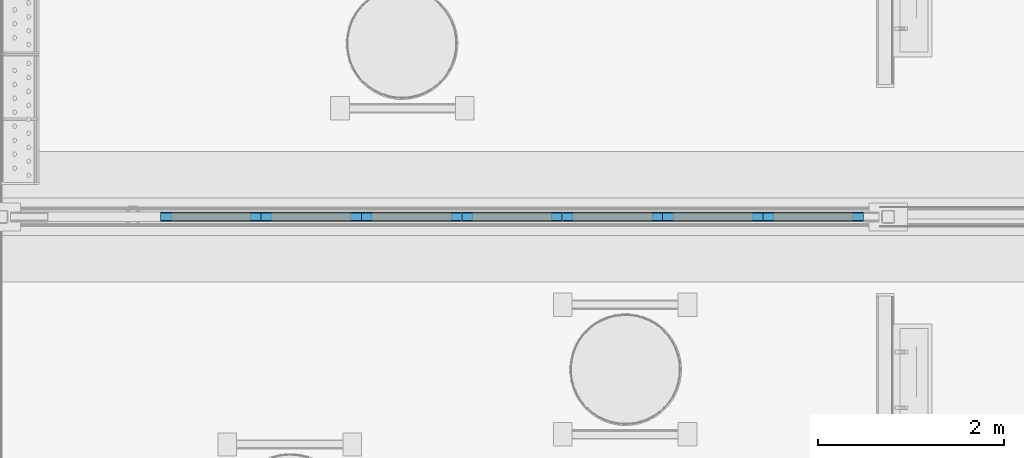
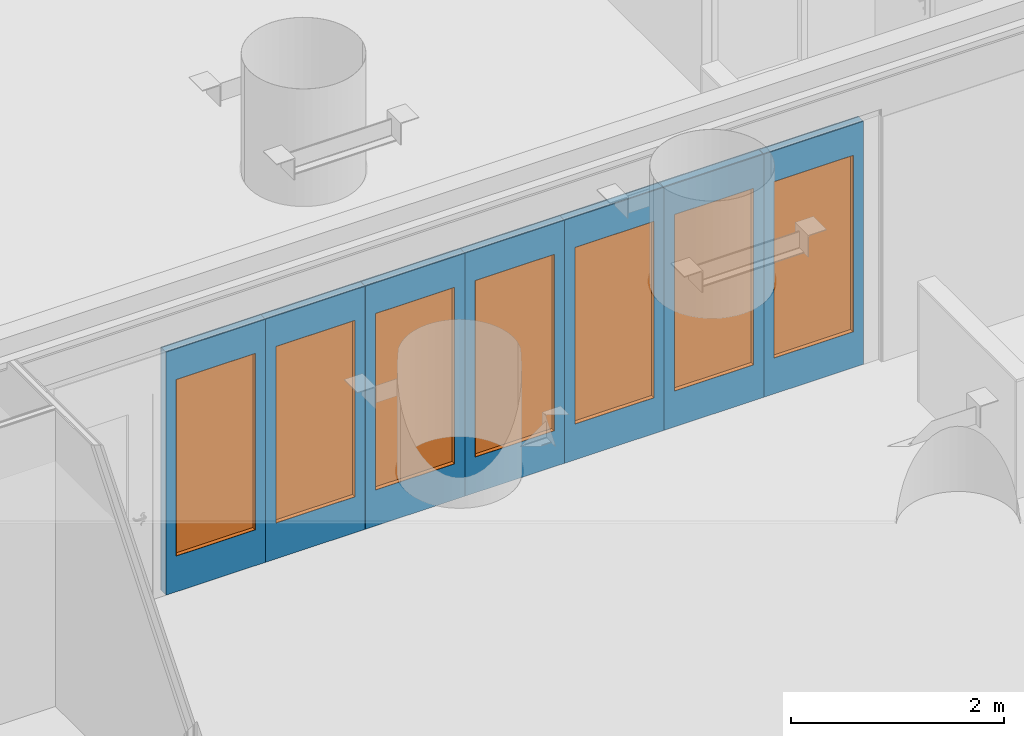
# One storey, part 14 of 788: 21 building element parts, 7 proxies, 7 openings, 7 elements without a shape of their own.
"""IFC2X3 building model written with IfcOpenShell, lengths in millimetres."""

from ifc_helpers import new_model, entity, si_unit, converted_unit, derived_unit, money_unit, direction, frame, origin_with_axes, place, context, subcontext, project, spatial, open_shell, faceted_brep, surface_model, source, transform, mapped, material, type_object, type_shapes, element, fill, aggregate, save


model = new_model("IFC2X3")

# Units and contexts
model_context = context("Model", 3, precision=0.01, world=origin_with_axes(), true_north=direction((0.0, 1.0)))
plan_context = context("Plan", 3, precision=0.01, world=origin_with_axes(), true_north=direction((0.0, 1.0)))
body_context = subcontext(model_context, "Body", "Model", "MODEL_VIEW")
ifc_project = project(units=[si_unit("LENGTHUNIT", "METRE", prefix="MILLI"), si_unit("AREAUNIT", "SQUARE_METRE"), si_unit("VOLUMEUNIT", "CUBIC_METRE"), converted_unit("PLANEANGLEUNIT", "DEGREE", entity("IfcPlaneAngleMeasure", 0.0174532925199), si_unit("PLANEANGLEUNIT", "RADIAN"), dimensions=[0, 0, 0, 0, 0, 0, 0]), money_unit("EUR"), converted_unit("TIMEUNIT", "Year", entity("IfcTimeMeasure", 31556926.0), si_unit("TIMEUNIT", "SECOND"), dimensions=[0, 0, 1, 0, 0, 0, 0]), si_unit("MASSUNIT", "GRAM", prefix="KILO"), si_unit("THERMODYNAMICTEMPERATUREUNIT", "DEGREE_CELSIUS"), si_unit("LUMINOUSINTENSITYUNIT", "LUMEN"), si_unit("ENERGYUNIT", "JOULE", prefix="MEGA"), derived_unit("THERMALCONDUCTANCEUNIT", [(si_unit("POWERUNIT", "WATT"), 1), (si_unit("LENGTHUNIT", "METRE"), -1), (si_unit("THERMODYNAMICTEMPERATUREUNIT", "KELVIN"), -1)]), derived_unit("SPECIFICHEATCAPACITYUNIT", [(si_unit("ENERGYUNIT", "JOULE"), 1), (si_unit("MASSUNIT", "GRAM", prefix="KILO"), -1), (si_unit("THERMODYNAMICTEMPERATUREUNIT", "KELVIN"), -1)]), derived_unit("MASSDENSITYUNIT", [(si_unit("MASSUNIT", "GRAM", prefix="KILO"), 1), (si_unit("VOLUMEUNIT", "CUBIC_METRE"), -1)])], contexts=[model_context, plan_context])

# Site, building, storey
site_placement = place(None, origin_with_axes())
site = spatial("IfcSite", under=ifc_project, at=site_placement, Name="Site", CompositionType="ELEMENT")
building_placement = place(site_placement, origin_with_axes())
building = spatial("IfcBuilding", under=site, at=building_placement, Name="Naam gebouw", CompositionType="ELEMENT")
storey_placement = place(building_placement, origin_with_axes())
storey = spatial("IfcBuildingStorey", under=building, at=storey_placement, Name="Begane grond", CompositionType="ELEMENT", Elevation=0.0)

# Proxy
building_element_proxy_type_1 = type_object("IfcBuildingElementProxyType", Name="R1 25", PredefinedType="NOTDEFINED")
shared_shape = source(origin_with_axes(), body_context, "Body", "SurfaceModel", [
    faceted_brep([(-426.5, -102.0, 2018.0), (-426.5, 0.0, 2018.0), (-428.5, 0.0, 2018.0), (-428.5, -102.0, 2018.0), (-426.5, -102.0, 2.0), (-426.5, 0.0, 2.0), (-428.5, 0.0, 2.0), (-428.5, -102.0, 2.0)], [[[0, 1, 2, 3]], [[4, 5, 1, 0]], [[1, 5, 6, 2]], [[3, 2, 6, 7]], [[0, 3, 7, 4]], [[7, 6, 5, 4]]]),
    faceted_brep([(426.5, -102.0, 2.0), (426.5, 0.0, 2.0), (428.5, 0.0, 2.0), (428.5, -102.0, 2.0), (426.5, -102.0, 2018.0), (426.5, 0.0, 2018.0), (428.5, 0.0, 2018.0), (428.5, -102.0, 2018.0)], [[[0, 1, 2, 3]], [[4, 5, 1, 0]], [[1, 5, 6, 2]], [[3, 2, 6, 7]], [[0, 3, 7, 4]], [[7, 6, 5, 4]]]),
    faceted_brep([(-426.5, -102.0, 2.0), (-426.5, 0.0, 2.0), (-428.5, 0.0, 2.0), (-428.5, -102.0, 2.0), (426.5, -102.0, 2.0), (426.5, 0.0, 2.0), (428.5, 0.0, 2.0), (428.5, 0.0, 0.0), (-428.5, 0.0, 0.0), (-428.5, -102.0, 0.0), (428.5, -102.0, 0.0), (428.5, -102.0, 2.0)], [[[0, 1, 2, 3]], [[4, 5, 1, 0]], [[1, 5, 6, 7, 8, 2]], [[3, 2, 8, 9]], [[0, 3, 9, 10, 11, 4]], [[11, 6, 5, 4]], [[10, 7, 6, 11]], [[9, 8, 7, 10]]]),
    faceted_brep([(426.5, -102.0, 2018.0), (426.5, 0.0, 2018.0), (428.5, 0.0, 2018.0), (428.5, -102.0, 2018.0), (-426.5, -102.0, 2018.0), (-426.5, 0.0, 2018.0), (-428.5, 0.0, 2018.0), (-428.5, 0.0, 2020.0), (428.5, 0.0, 2020.0), (428.5, -102.0, 2020.0), (-428.5, -102.0, 2020.0), (-428.5, -102.0, 2018.0)], [[[0, 1, 2, 3]], [[4, 5, 1, 0]], [[1, 5, 6, 7, 8, 2]], [[3, 2, 8, 9]], [[0, 3, 9, 10, 11, 4]], [[11, 6, 5, 4]], [[10, 7, 6, 11]], [[9, 8, 7, 10]]]),
    surface_model("IfcShellBasedSurfaceModel", [(-426.5, -64.0, 2.0), (426.5, -64.0, 2.0), (426.5, -64.0, 2018.0), (-426.5, -64.0, 2018.0)], [open_shell([[[0, 1, 2, 3]]])]),
    surface_model("IfcShellBasedSurfaceModel", [(-426.5, -44.0, 2.0), (-426.5, -44.0, 2018.0), (426.5, -44.0, 2018.0), (426.5, -44.0, 2.0)], [open_shell([[[0, 1, 2, 3]]])]),
])
type_shapes(building_element_proxy_type_1, [shared_shape])
proxy_8_placement = place(storey_placement, frame((12618.997734, 18619.9899917, 10.0), z_axis=(0.0, 0.0, 1.0), x_axis=(1.0, 0.0, 0.0)))
opening_1_placement = place(proxy_8_placement, frame((538.5, 0.0, 410.0), z_axis=(0.0, 0.0, 1.0), x_axis=(1.0, 0.0, 0.0)))
proxy_1_placement = place(opening_1_placement, frame((428.5, 0.0, 0.0), z_axis=(0.0, 0.0, 1.0), x_axis=(-1.0, 0.0, 0.0)))
proxy_1 = element("IfcBuildingElementProxy", 1, at=proxy_1_placement, inside=storey, type_object=building_element_proxy_type_1, Name="raam panelenwand", context=body_context, shape_type="MappedRepresentation", body=[
    mapped(shared_shape, transform((428.5, 51.0, 0.0))),
])

proxy_9_placement = place(storey_placement, frame((13696.997734, 18619.9899917, 10.0), z_axis=(0.0, 0.0, 1.0), x_axis=(1.0, 0.0, 0.0)))
opening_2_placement = place(proxy_9_placement, frame((538.5, 0.0, 410.0), z_axis=(0.0, 0.0, 1.0), x_axis=(1.0, 0.0, 0.0)))
proxy_2_placement = place(opening_2_placement, frame((428.5, 0.0, 0.0), z_axis=(0.0, 0.0, 1.0), x_axis=(-1.0, 0.0, 0.0)))
proxy_2 = element("IfcBuildingElementProxy", 2, at=proxy_2_placement, inside=storey, type_object=building_element_proxy_type_1, Name="raam panelenwand", context=body_context, shape_type="MappedRepresentation", body=[
    mapped(shared_shape, transform((428.5, 51.0, 0.0))),
])

proxy_10_placement = place(storey_placement, frame((14774.997734, 18619.9899917, 10.0), z_axis=(0.0, 0.0, 1.0), x_axis=(1.0, 0.0, 0.0)))
opening_3_placement = place(proxy_10_placement, frame((538.5, 0.0, 410.0), z_axis=(0.0, 0.0, 1.0), x_axis=(1.0, 0.0, 0.0)))
proxy_3_placement = place(opening_3_placement, frame((428.5, 0.0, 0.0), z_axis=(0.0, 0.0, 1.0), x_axis=(-1.0, 0.0, 0.0)))
proxy_3 = element("IfcBuildingElementProxy", 3, at=proxy_3_placement, inside=storey, type_object=building_element_proxy_type_1, Name="raam panelenwand", context=body_context, shape_type="MappedRepresentation", body=[
    mapped(shared_shape, transform((428.5, 51.0, 0.0))),
])

proxy_11_placement = place(storey_placement, frame((15852.997734, 18619.9899917, 10.0), z_axis=(0.0, 0.0, 1.0), x_axis=(1.0, 0.0, 0.0)))
opening_4_placement = place(proxy_11_placement, frame((538.5, 0.0, 410.0), z_axis=(0.0, 0.0, 1.0), x_axis=(1.0, 0.0, 0.0)))
proxy_4_placement = place(opening_4_placement, frame((428.5, 0.0, 0.0), z_axis=(0.0, 0.0, 1.0), x_axis=(-1.0, 0.0, 0.0)))
proxy_4 = element("IfcBuildingElementProxy", 4, at=proxy_4_placement, inside=storey, type_object=building_element_proxy_type_1, Name="raam panelenwand", context=body_context, shape_type="MappedRepresentation", body=[
    mapped(shared_shape, transform((428.5, 51.0, 0.0))),
])

proxy_12_placement = place(storey_placement, frame((16930.997734, 18619.9899917, 10.0), z_axis=(0.0, 0.0, 1.0), x_axis=(1.0, 0.0, 0.0)))
opening_5_placement = place(proxy_12_placement, frame((538.5, 0.0, 410.0), z_axis=(0.0, 0.0, 1.0), x_axis=(1.0, 0.0, 0.0)))
proxy_5_placement = place(opening_5_placement, frame((428.5, 0.0, 0.0), z_axis=(0.0, 0.0, 1.0), x_axis=(-1.0, 0.0, 0.0)))
proxy_5 = element("IfcBuildingElementProxy", 5, at=proxy_5_placement, inside=storey, type_object=building_element_proxy_type_1, Name="raam panelenwand", context=body_context, shape_type="MappedRepresentation", body=[
    mapped(shared_shape, transform((428.5, 51.0, 0.0))),
])

proxy_13_placement = place(storey_placement, frame((18008.997734, 18619.9899917, 10.0), z_axis=(0.0, 0.0, 1.0), x_axis=(1.0, 0.0, 0.0)))
opening_6_placement = place(proxy_13_placement, frame((538.5, 0.0, 410.0), z_axis=(0.0, 0.0, 1.0), x_axis=(1.0, 0.0, 0.0)))
proxy_6_placement = place(opening_6_placement, frame((428.5, 0.0, 0.0), z_axis=(0.0, 0.0, 1.0), x_axis=(-1.0, 0.0, 0.0)))
proxy_6 = element("IfcBuildingElementProxy", 6, at=proxy_6_placement, inside=storey, type_object=building_element_proxy_type_1, Name="raam panelenwand", context=body_context, shape_type="MappedRepresentation", body=[
    mapped(shared_shape, transform((428.5, 51.0, 0.0))),
])

proxy_14_placement = place(storey_placement, frame((19086.997734, 18619.9899917, 10.0), z_axis=(0.0, 0.0, 1.0), x_axis=(1.0, 0.0, 0.0)))
opening_7_placement = place(proxy_14_placement, frame((538.5, 0.0, 410.0), z_axis=(0.0, 0.0, 1.0), x_axis=(1.0, 0.0, 0.0)))
proxy_7_placement = place(opening_7_placement, frame((428.5, 0.0, 0.0), z_axis=(0.0, 0.0, 1.0), x_axis=(-1.0, 0.0, 0.0)))
proxy_7 = element("IfcBuildingElementProxy", 7, at=proxy_7_placement, inside=storey, type_object=building_element_proxy_type_1, Name="raam panelenwand", context=body_context, shape_type="MappedRepresentation", body=[
    mapped(shared_shape, transform((428.5, 51.0, 0.0))),
])

# Proxy, opening
building_element_proxy_type_2 = type_object("IfcBuildingElementProxyType", Name="30 Panelenwand 102 102", PredefinedType="NOTDEFINED")
proxy_8 = element("IfcBuildingElementProxy", 8, at=proxy_8_placement, inside=storey, type_object=building_element_proxy_type_2, Name="panelenwand")
opening_1 = element("IfcOpeningElement", 9, at=opening_1_placement, cuts=proxy_8, Name="raam panelenwand", context=body_context, shape_type="Brep", body=[
    faceted_brep([(-428.5, -102.0, 0.0), (-428.5, -102.0, 2020.0), (-428.5, 204.0, 2020.0), (-428.5, 204.0, 0.0), (428.5, -102.0, 0.0), (428.5, -102.0, 2020.0), (428.5, 204.0, 2020.0), (428.5, 204.0, 0.0)], [[[0, 1, 2, 3]], [[0, 4, 5, 1]], [[1, 5, 6, 2]], [[3, 2, 6, 7]], [[4, 0, 3, 7]], [[5, 4, 7, 6]]]),
])

fill(opening_1, proxy_1)

# Building element part
ifc_material_1 = material(Name="Gipsplaat")
building_element_part_1_placement = place(proxy_8_placement, origin_with_axes())
building_element_part_1 = element("IfcBuildingElementPart", 10, at=building_element_part_1_placement, material=ifc_material_1, Name="Gipsplaat", context=body_context, shape_type="Brep", body=[
    faceted_brep([(1077.0, 38.5, 2780.0), (0.0, 38.5, 2780.0), (0.0, 38.5, 0.0), (1077.0, 38.5, 0.0), (110.0, 38.5, 410.0), (110.0, 38.5, 2430.0), (967.0, 38.5, 2430.0), (967.0, 38.5, 410.0), (1077.0, 51.0, 2780.0), (0.0, 51.0, 2780.0), (0.0, 51.0, 0.0), (1077.0, 51.0, 0.0), (110.0, 51.0, 410.0), (110.0, 51.0, 2430.0), (967.0, 51.0, 2430.0), (967.0, 51.0, 410.0)], [[[0, 1, 2, 3], [4, 5, 6, 7]], [[8, 9, 1, 0]], [[9, 10, 2, 1]], [[3, 2, 10, 11]], [[3, 11, 8, 0]], [[12, 13, 5, 4]], [[13, 14, 6, 5]], [[14, 15, 7, 6]], [[15, 12, 4, 7]], [[11, 10, 9, 8], [12, 15, 14, 13]]]),
])

ifc_material_2 = material(Name="Lucht frame_wit")
building_element_part_2_placement = place(proxy_8_placement, origin_with_axes())
building_element_part_2 = element("IfcBuildingElementPart", 11, at=building_element_part_2_placement, material=ifc_material_2, Name="Lucht frame_wit", context=body_context, shape_type="Brep", body=[
    faceted_brep([(1077.0, -38.5, 2780.0), (0.0, -38.5, 2780.0), (0.0, -38.5, 0.0), (1077.0, -38.5, 0.0), (110.0, -38.5, 410.0), (110.0, -38.5, 2430.0), (967.0, -38.5, 2430.0), (967.0, -38.5, 410.0), (1077.0, 38.5, 2780.0), (0.0, 38.5, 2780.0), (0.0, 38.5, 0.0), (1077.0, 38.5, 0.0), (110.0, 38.5, 410.0), (110.0, 38.5, 2430.0), (967.0, 38.5, 2430.0), (967.0, 38.5, 410.0)], [[[0, 1, 2, 3], [4, 5, 6, 7]], [[8, 9, 1, 0]], [[9, 10, 2, 1]], [[3, 2, 10, 11]], [[3, 11, 8, 0]], [[12, 13, 5, 4]], [[13, 14, 6, 5]], [[14, 15, 7, 6]], [[15, 12, 4, 7]], [[11, 10, 9, 8], [12, 15, 14, 13]]]),
])

building_element_part_3_placement = place(proxy_8_placement, origin_with_axes())
building_element_part_3 = element("IfcBuildingElementPart", 12, at=building_element_part_3_placement, material=ifc_material_1, Name="Gipsplaat", context=body_context, shape_type="Brep", body=[
    faceted_brep([(1077.0, -51.0, 2780.0), (0.0, -51.0, 2780.0), (0.0, -51.0, 0.0), (1077.0, -51.0, 0.0), (110.0, -51.0, 410.0), (110.0, -51.0, 2430.0), (967.0, -51.0, 2430.0), (967.0, -51.0, 410.0), (1077.0, -38.5, 2780.0), (0.0, -38.5, 2780.0), (0.0, -38.5, 0.0), (1077.0, -38.5, 0.0), (110.0, -38.5, 410.0), (110.0, -38.5, 2430.0), (967.0, -38.5, 2430.0), (967.0, -38.5, 410.0)], [[[0, 1, 2, 3], [4, 5, 6, 7]], [[8, 9, 1, 0]], [[9, 10, 2, 1]], [[3, 2, 10, 11]], [[3, 11, 8, 0]], [[12, 13, 5, 4]], [[13, 14, 6, 5]], [[14, 15, 7, 6]], [[15, 12, 4, 7]], [[11, 10, 9, 8], [12, 15, 14, 13]]]),
])

aggregate(proxy_8, [building_element_part_1, building_element_part_2, building_element_part_3])

# Proxy, opening
proxy_9 = element("IfcBuildingElementProxy", 13, at=proxy_9_placement, inside=storey, type_object=building_element_proxy_type_2, Name="panelenwand")
opening_2 = element("IfcOpeningElement", 14, at=opening_2_placement, cuts=proxy_9, Name="raam panelenwand", context=body_context, shape_type="Brep", body=[
    faceted_brep([(-428.5, -102.0, 0.0), (-428.5, -102.0, 2020.0), (-428.5, 204.0, 2020.0), (-428.5, 204.0, 0.0), (428.5, -102.0, 0.0), (428.5, -102.0, 2020.0), (428.5, 204.0, 2020.0), (428.5, 204.0, 0.0)], [[[0, 1, 2, 3]], [[0, 4, 5, 1]], [[1, 5, 6, 2]], [[3, 2, 6, 7]], [[4, 0, 3, 7]], [[5, 4, 7, 6]]]),
])

fill(opening_2, proxy_2)

# Building element part
building_element_part_4_placement = place(proxy_9_placement, origin_with_axes())
building_element_part_4 = element("IfcBuildingElementPart", 15, at=building_element_part_4_placement, material=ifc_material_1, Name="Gipsplaat", context=body_context, shape_type="Brep", body=[
    faceted_brep([(1077.0, 38.5, 2780.0), (0.0, 38.5, 2780.0), (0.0, 38.5, 0.0), (1077.0, 38.5, 0.0), (110.0, 38.5, 410.0), (110.0, 38.5, 2430.0), (967.0, 38.5, 2430.0), (967.0, 38.5, 410.0), (1077.0, 51.0, 2780.0), (0.0, 51.0, 2780.0), (0.0, 51.0, 0.0), (1077.0, 51.0, 0.0), (110.0, 51.0, 410.0), (110.0, 51.0, 2430.0), (967.0, 51.0, 2430.0), (967.0, 51.0, 410.0)], [[[0, 1, 2, 3], [4, 5, 6, 7]], [[8, 9, 1, 0]], [[9, 10, 2, 1]], [[3, 2, 10, 11]], [[3, 11, 8, 0]], [[12, 13, 5, 4]], [[13, 14, 6, 5]], [[14, 15, 7, 6]], [[15, 12, 4, 7]], [[11, 10, 9, 8], [12, 15, 14, 13]]]),
])

building_element_part_5_placement = place(proxy_9_placement, origin_with_axes())
building_element_part_5 = element("IfcBuildingElementPart", 16, at=building_element_part_5_placement, material=ifc_material_2, Name="Lucht frame_wit", context=body_context, shape_type="Brep", body=[
    faceted_brep([(1077.0, -38.5, 2780.0), (0.0, -38.5, 2780.0), (0.0, -38.5, 0.0), (1077.0, -38.5, 0.0), (110.0, -38.5, 410.0), (110.0, -38.5, 2430.0), (967.0, -38.5, 2430.0), (967.0, -38.5, 410.0), (1077.0, 38.5, 2780.0), (0.0, 38.5, 2780.0), (0.0, 38.5, 0.0), (1077.0, 38.5, 0.0), (110.0, 38.5, 410.0), (110.0, 38.5, 2430.0), (967.0, 38.5, 2430.0), (967.0, 38.5, 410.0)], [[[0, 1, 2, 3], [4, 5, 6, 7]], [[8, 9, 1, 0]], [[9, 10, 2, 1]], [[3, 2, 10, 11]], [[3, 11, 8, 0]], [[12, 13, 5, 4]], [[13, 14, 6, 5]], [[14, 15, 7, 6]], [[15, 12, 4, 7]], [[11, 10, 9, 8], [12, 15, 14, 13]]]),
])

building_element_part_6_placement = place(proxy_9_placement, origin_with_axes())
building_element_part_6 = element("IfcBuildingElementPart", 17, at=building_element_part_6_placement, material=ifc_material_1, Name="Gipsplaat", context=body_context, shape_type="Brep", body=[
    faceted_brep([(1077.0, -51.0, 2780.0), (0.0, -51.0, 2780.0), (0.0, -51.0, 0.0), (1077.0, -51.0, 0.0), (110.0, -51.0, 410.0), (110.0, -51.0, 2430.0), (967.0, -51.0, 2430.0), (967.0, -51.0, 410.0), (1077.0, -38.5, 2780.0), (0.0, -38.5, 2780.0), (0.0, -38.5, 0.0), (1077.0, -38.5, 0.0), (110.0, -38.5, 410.0), (110.0, -38.5, 2430.0), (967.0, -38.5, 2430.0), (967.0, -38.5, 410.0)], [[[0, 1, 2, 3], [4, 5, 6, 7]], [[8, 9, 1, 0]], [[9, 10, 2, 1]], [[3, 2, 10, 11]], [[3, 11, 8, 0]], [[12, 13, 5, 4]], [[13, 14, 6, 5]], [[14, 15, 7, 6]], [[15, 12, 4, 7]], [[11, 10, 9, 8], [12, 15, 14, 13]]]),
])

aggregate(proxy_9, [building_element_part_4, building_element_part_5, building_element_part_6])

# Proxy, opening
proxy_10 = element("IfcBuildingElementProxy", 18, at=proxy_10_placement, inside=storey, type_object=building_element_proxy_type_2, Name="panelenwand")
opening_3 = element("IfcOpeningElement", 19, at=opening_3_placement, cuts=proxy_10, Name="raam panelenwand", context=body_context, shape_type="Brep", body=[
    faceted_brep([(-428.5, -102.0, 0.0), (-428.5, -102.0, 2020.0), (-428.5, 204.0, 2020.0), (-428.5, 204.0, 0.0), (428.5, -102.0, 0.0), (428.5, -102.0, 2020.0), (428.5, 204.0, 2020.0), (428.5, 204.0, 0.0)], [[[0, 1, 2, 3]], [[0, 4, 5, 1]], [[1, 5, 6, 2]], [[3, 2, 6, 7]], [[4, 0, 3, 7]], [[5, 4, 7, 6]]]),
])

fill(opening_3, proxy_3)

# Building element part
building_element_part_7_placement = place(proxy_10_placement, origin_with_axes())
building_element_part_7 = element("IfcBuildingElementPart", 20, at=building_element_part_7_placement, material=ifc_material_1, Name="Gipsplaat", context=body_context, shape_type="Brep", body=[
    faceted_brep([(1077.0, 38.5, 2780.0), (0.0, 38.5, 2780.0), (0.0, 38.5, 0.0), (1077.0, 38.5, 0.0), (110.0, 38.5, 410.0), (110.0, 38.5, 2430.0), (967.0, 38.5, 2430.0), (967.0, 38.5, 410.0), (1077.0, 51.0, 2780.0), (0.0, 51.0, 2780.0), (0.0, 51.0, 0.0), (1077.0, 51.0, 0.0), (110.0, 51.0, 410.0), (110.0, 51.0, 2430.0), (967.0, 51.0, 2430.0), (967.0, 51.0, 410.0)], [[[0, 1, 2, 3], [4, 5, 6, 7]], [[8, 9, 1, 0]], [[9, 10, 2, 1]], [[3, 2, 10, 11]], [[3, 11, 8, 0]], [[12, 13, 5, 4]], [[13, 14, 6, 5]], [[14, 15, 7, 6]], [[15, 12, 4, 7]], [[11, 10, 9, 8], [12, 15, 14, 13]]]),
])

building_element_part_8_placement = place(proxy_10_placement, origin_with_axes())
building_element_part_8 = element("IfcBuildingElementPart", 21, at=building_element_part_8_placement, material=ifc_material_2, Name="Lucht frame_wit", context=body_context, shape_type="Brep", body=[
    faceted_brep([(1077.0, -38.5, 2780.0), (0.0, -38.5, 2780.0), (0.0, -38.5, 0.0), (1077.0, -38.5, 0.0), (110.0, -38.5, 410.0), (110.0, -38.5, 2430.0), (967.0, -38.5, 2430.0), (967.0, -38.5, 410.0), (1077.0, 38.5, 2780.0), (0.0, 38.5, 2780.0), (0.0, 38.5, 0.0), (1077.0, 38.5, 0.0), (110.0, 38.5, 410.0), (110.0, 38.5, 2430.0), (967.0, 38.5, 2430.0), (967.0, 38.5, 410.0)], [[[0, 1, 2, 3], [4, 5, 6, 7]], [[8, 9, 1, 0]], [[9, 10, 2, 1]], [[3, 2, 10, 11]], [[3, 11, 8, 0]], [[12, 13, 5, 4]], [[13, 14, 6, 5]], [[14, 15, 7, 6]], [[15, 12, 4, 7]], [[11, 10, 9, 8], [12, 15, 14, 13]]]),
])

building_element_part_9_placement = place(proxy_10_placement, origin_with_axes())
building_element_part_9 = element("IfcBuildingElementPart", 22, at=building_element_part_9_placement, material=ifc_material_1, Name="Gipsplaat", context=body_context, shape_type="Brep", body=[
    faceted_brep([(1077.0, -51.0, 2780.0), (0.0, -51.0, 2780.0), (0.0, -51.0, 0.0), (1077.0, -51.0, 0.0), (110.0, -51.0, 410.0), (110.0, -51.0, 2430.0), (967.0, -51.0, 2430.0), (967.0, -51.0, 410.0), (1077.0, -38.5, 2780.0), (0.0, -38.5, 2780.0), (0.0, -38.5, 0.0), (1077.0, -38.5, 0.0), (110.0, -38.5, 410.0), (110.0, -38.5, 2430.0), (967.0, -38.5, 2430.0), (967.0, -38.5, 410.0)], [[[0, 1, 2, 3], [4, 5, 6, 7]], [[8, 9, 1, 0]], [[9, 10, 2, 1]], [[3, 2, 10, 11]], [[3, 11, 8, 0]], [[12, 13, 5, 4]], [[13, 14, 6, 5]], [[14, 15, 7, 6]], [[15, 12, 4, 7]], [[11, 10, 9, 8], [12, 15, 14, 13]]]),
])

aggregate(proxy_10, [building_element_part_7, building_element_part_8, building_element_part_9])

# Proxy, opening
proxy_11 = element("IfcBuildingElementProxy", 23, at=proxy_11_placement, inside=storey, type_object=building_element_proxy_type_2, Name="panelenwand")
opening_4 = element("IfcOpeningElement", 24, at=opening_4_placement, cuts=proxy_11, Name="raam panelenwand", context=body_context, shape_type="Brep", body=[
    faceted_brep([(-428.5, -102.0, 0.0), (-428.5, -102.0, 2020.0), (-428.5, 204.0, 2020.0), (-428.5, 204.0, 0.0), (428.5, -102.0, 0.0), (428.5, -102.0, 2020.0), (428.5, 204.0, 2020.0), (428.5, 204.0, 0.0)], [[[0, 1, 2, 3]], [[0, 4, 5, 1]], [[1, 5, 6, 2]], [[3, 2, 6, 7]], [[4, 0, 3, 7]], [[5, 4, 7, 6]]]),
])

fill(opening_4, proxy_4)

# Building element part
building_element_part_10_placement = place(proxy_11_placement, origin_with_axes())
building_element_part_10 = element("IfcBuildingElementPart", 25, at=building_element_part_10_placement, material=ifc_material_1, Name="Gipsplaat", context=body_context, shape_type="Brep", body=[
    faceted_brep([(1077.0, 38.5, 2780.0), (0.0, 38.5, 2780.0), (0.0, 38.5, 0.0), (1077.0, 38.5, 0.0), (110.0, 38.5, 410.0), (110.0, 38.5, 2430.0), (967.0, 38.5, 2430.0), (967.0, 38.5, 410.0), (1077.0, 51.0, 2780.0), (0.0, 51.0, 2780.0), (0.0, 51.0, 0.0), (1077.0, 51.0, 0.0), (110.0, 51.0, 410.0), (110.0, 51.0, 2430.0), (967.0, 51.0, 2430.0), (967.0, 51.0, 410.0)], [[[0, 1, 2, 3], [4, 5, 6, 7]], [[8, 9, 1, 0]], [[9, 10, 2, 1]], [[3, 2, 10, 11]], [[3, 11, 8, 0]], [[12, 13, 5, 4]], [[13, 14, 6, 5]], [[14, 15, 7, 6]], [[15, 12, 4, 7]], [[11, 10, 9, 8], [12, 15, 14, 13]]]),
])

building_element_part_11_placement = place(proxy_11_placement, origin_with_axes())
building_element_part_11 = element("IfcBuildingElementPart", 26, at=building_element_part_11_placement, material=ifc_material_2, Name="Lucht frame_wit", context=body_context, shape_type="Brep", body=[
    faceted_brep([(1077.0, -38.5, 2780.0), (0.0, -38.5, 2780.0), (0.0, -38.5, 0.0), (1077.0, -38.5, 0.0), (110.0, -38.5, 410.0), (110.0, -38.5, 2430.0), (967.0, -38.5, 2430.0), (967.0, -38.5, 410.0), (1077.0, 38.5, 2780.0), (0.0, 38.5, 2780.0), (0.0, 38.5, 0.0), (1077.0, 38.5, 0.0), (110.0, 38.5, 410.0), (110.0, 38.5, 2430.0), (967.0, 38.5, 2430.0), (967.0, 38.5, 410.0)], [[[0, 1, 2, 3], [4, 5, 6, 7]], [[8, 9, 1, 0]], [[9, 10, 2, 1]], [[3, 2, 10, 11]], [[3, 11, 8, 0]], [[12, 13, 5, 4]], [[13, 14, 6, 5]], [[14, 15, 7, 6]], [[15, 12, 4, 7]], [[11, 10, 9, 8], [12, 15, 14, 13]]]),
])

building_element_part_12_placement = place(proxy_11_placement, origin_with_axes())
building_element_part_12 = element("IfcBuildingElementPart", 27, at=building_element_part_12_placement, material=ifc_material_1, Name="Gipsplaat", context=body_context, shape_type="Brep", body=[
    faceted_brep([(1077.0, -51.0, 2780.0), (0.0, -51.0, 2780.0), (0.0, -51.0, 0.0), (1077.0, -51.0, 0.0), (110.0, -51.0, 410.0), (110.0, -51.0, 2430.0), (967.0, -51.0, 2430.0), (967.0, -51.0, 410.0), (1077.0, -38.5, 2780.0), (0.0, -38.5, 2780.0), (0.0, -38.5, 0.0), (1077.0, -38.5, 0.0), (110.0, -38.5, 410.0), (110.0, -38.5, 2430.0), (967.0, -38.5, 2430.0), (967.0, -38.5, 410.0)], [[[0, 1, 2, 3], [4, 5, 6, 7]], [[8, 9, 1, 0]], [[9, 10, 2, 1]], [[3, 2, 10, 11]], [[3, 11, 8, 0]], [[12, 13, 5, 4]], [[13, 14, 6, 5]], [[14, 15, 7, 6]], [[15, 12, 4, 7]], [[11, 10, 9, 8], [12, 15, 14, 13]]]),
])

aggregate(proxy_11, [building_element_part_10, building_element_part_11, building_element_part_12])

# Proxy, opening
proxy_12 = element("IfcBuildingElementProxy", 28, at=proxy_12_placement, inside=storey, type_object=building_element_proxy_type_2, Name="panelenwand")
opening_5 = element("IfcOpeningElement", 29, at=opening_5_placement, cuts=proxy_12, Name="raam panelenwand", context=body_context, shape_type="Brep", body=[
    faceted_brep([(-428.5, -102.0, 0.0), (-428.5, -102.0, 2020.0), (-428.5, 204.0, 2020.0), (-428.5, 204.0, 0.0), (428.5, -102.0, 0.0), (428.5, -102.0, 2020.0), (428.5, 204.0, 2020.0), (428.5, 204.0, 0.0)], [[[0, 1, 2, 3]], [[0, 4, 5, 1]], [[1, 5, 6, 2]], [[3, 2, 6, 7]], [[4, 0, 3, 7]], [[5, 4, 7, 6]]]),
])

fill(opening_5, proxy_5)

# Building element part
building_element_part_13_placement = place(proxy_12_placement, origin_with_axes())
building_element_part_13 = element("IfcBuildingElementPart", 30, at=building_element_part_13_placement, material=ifc_material_1, Name="Gipsplaat", context=body_context, shape_type="Brep", body=[
    faceted_brep([(1077.0, 38.5, 2780.0), (0.0, 38.5, 2780.0), (0.0, 38.5, 0.0), (1077.0, 38.5, 0.0), (110.0, 38.5, 410.0), (110.0, 38.5, 2430.0), (967.0, 38.5, 2430.0), (967.0, 38.5, 410.0), (1077.0, 51.0, 2780.0), (0.0, 51.0, 2780.0), (0.0, 51.0, 0.0), (1077.0, 51.0, 0.0), (110.0, 51.0, 410.0), (110.0, 51.0, 2430.0), (967.0, 51.0, 2430.0), (967.0, 51.0, 410.0)], [[[0, 1, 2, 3], [4, 5, 6, 7]], [[8, 9, 1, 0]], [[9, 10, 2, 1]], [[3, 2, 10, 11]], [[3, 11, 8, 0]], [[12, 13, 5, 4]], [[13, 14, 6, 5]], [[14, 15, 7, 6]], [[15, 12, 4, 7]], [[11, 10, 9, 8], [12, 15, 14, 13]]]),
])

building_element_part_14_placement = place(proxy_12_placement, origin_with_axes())
building_element_part_14 = element("IfcBuildingElementPart", 31, at=building_element_part_14_placement, material=ifc_material_2, Name="Lucht frame_wit", context=body_context, shape_type="Brep", body=[
    faceted_brep([(1077.0, -38.5, 2780.0), (0.0, -38.5, 2780.0), (0.0, -38.5, 0.0), (1077.0, -38.5, 0.0), (110.0, -38.5, 410.0), (110.0, -38.5, 2430.0), (967.0, -38.5, 2430.0), (967.0, -38.5, 410.0), (1077.0, 38.5, 2780.0), (0.0, 38.5, 2780.0), (0.0, 38.5, 0.0), (1077.0, 38.5, 0.0), (110.0, 38.5, 410.0), (110.0, 38.5, 2430.0), (967.0, 38.5, 2430.0), (967.0, 38.5, 410.0)], [[[0, 1, 2, 3], [4, 5, 6, 7]], [[8, 9, 1, 0]], [[9, 10, 2, 1]], [[3, 2, 10, 11]], [[3, 11, 8, 0]], [[12, 13, 5, 4]], [[13, 14, 6, 5]], [[14, 15, 7, 6]], [[15, 12, 4, 7]], [[11, 10, 9, 8], [12, 15, 14, 13]]]),
])

building_element_part_15_placement = place(proxy_12_placement, origin_with_axes())
building_element_part_15 = element("IfcBuildingElementPart", 32, at=building_element_part_15_placement, material=ifc_material_1, Name="Gipsplaat", context=body_context, shape_type="Brep", body=[
    faceted_brep([(1077.0, -51.0, 2780.0), (0.0, -51.0, 2780.0), (0.0, -51.0, 0.0), (1077.0, -51.0, 0.0), (110.0, -51.0, 410.0), (110.0, -51.0, 2430.0), (967.0, -51.0, 2430.0), (967.0, -51.0, 410.0), (1077.0, -38.5, 2780.0), (0.0, -38.5, 2780.0), (0.0, -38.5, 0.0), (1077.0, -38.5, 0.0), (110.0, -38.5, 410.0), (110.0, -38.5, 2430.0), (967.0, -38.5, 2430.0), (967.0, -38.5, 410.0)], [[[0, 1, 2, 3], [4, 5, 6, 7]], [[8, 9, 1, 0]], [[9, 10, 2, 1]], [[3, 2, 10, 11]], [[3, 11, 8, 0]], [[12, 13, 5, 4]], [[13, 14, 6, 5]], [[14, 15, 7, 6]], [[15, 12, 4, 7]], [[11, 10, 9, 8], [12, 15, 14, 13]]]),
])

aggregate(proxy_12, [building_element_part_13, building_element_part_14, building_element_part_15])

# Proxy, opening
proxy_13 = element("IfcBuildingElementProxy", 33, at=proxy_13_placement, inside=storey, type_object=building_element_proxy_type_2, Name="panelenwand")
opening_6 = element("IfcOpeningElement", 34, at=opening_6_placement, cuts=proxy_13, Name="raam panelenwand", context=body_context, shape_type="Brep", body=[
    faceted_brep([(-428.5, -102.0, 0.0), (-428.5, -102.0, 2020.0), (-428.5, 204.0, 2020.0), (-428.5, 204.0, 0.0), (428.5, -102.0, 0.0), (428.5, -102.0, 2020.0), (428.5, 204.0, 2020.0), (428.5, 204.0, 0.0)], [[[0, 1, 2, 3]], [[0, 4, 5, 1]], [[1, 5, 6, 2]], [[3, 2, 6, 7]], [[4, 0, 3, 7]], [[5, 4, 7, 6]]]),
])

fill(opening_6, proxy_6)

# Building element part
building_element_part_16_placement = place(proxy_13_placement, origin_with_axes())
building_element_part_16 = element("IfcBuildingElementPart", 35, at=building_element_part_16_placement, material=ifc_material_1, Name="Gipsplaat", context=body_context, shape_type="Brep", body=[
    faceted_brep([(1077.0, 38.5, 2780.0), (0.0, 38.5, 2780.0), (0.0, 38.5, 0.0), (1077.0, 38.5, 0.0), (110.0, 38.5, 410.0), (110.0, 38.5, 2430.0), (967.0, 38.5, 2430.0), (967.0, 38.5, 410.0), (1077.0, 51.0, 2780.0), (0.0, 51.0, 2780.0), (0.0, 51.0, 0.0), (1077.0, 51.0, 0.0), (110.0, 51.0, 410.0), (110.0, 51.0, 2430.0), (967.0, 51.0, 2430.0), (967.0, 51.0, 410.0)], [[[0, 1, 2, 3], [4, 5, 6, 7]], [[8, 9, 1, 0]], [[9, 10, 2, 1]], [[3, 2, 10, 11]], [[3, 11, 8, 0]], [[12, 13, 5, 4]], [[13, 14, 6, 5]], [[14, 15, 7, 6]], [[15, 12, 4, 7]], [[11, 10, 9, 8], [12, 15, 14, 13]]]),
])

building_element_part_17_placement = place(proxy_13_placement, origin_with_axes())
building_element_part_17 = element("IfcBuildingElementPart", 36, at=building_element_part_17_placement, material=ifc_material_2, Name="Lucht frame_wit", context=body_context, shape_type="Brep", body=[
    faceted_brep([(1077.0, -38.5, 2780.0), (0.0, -38.5, 2780.0), (0.0, -38.5, 0.0), (1077.0, -38.5, 0.0), (110.0, -38.5, 410.0), (110.0, -38.5, 2430.0), (967.0, -38.5, 2430.0), (967.0, -38.5, 410.0), (1077.0, 38.5, 2780.0), (0.0, 38.5, 2780.0), (0.0, 38.5, 0.0), (1077.0, 38.5, 0.0), (110.0, 38.5, 410.0), (110.0, 38.5, 2430.0), (967.0, 38.5, 2430.0), (967.0, 38.5, 410.0)], [[[0, 1, 2, 3], [4, 5, 6, 7]], [[8, 9, 1, 0]], [[9, 10, 2, 1]], [[3, 2, 10, 11]], [[3, 11, 8, 0]], [[12, 13, 5, 4]], [[13, 14, 6, 5]], [[14, 15, 7, 6]], [[15, 12, 4, 7]], [[11, 10, 9, 8], [12, 15, 14, 13]]]),
])

building_element_part_18_placement = place(proxy_13_placement, origin_with_axes())
building_element_part_18 = element("IfcBuildingElementPart", 37, at=building_element_part_18_placement, material=ifc_material_1, Name="Gipsplaat", context=body_context, shape_type="Brep", body=[
    faceted_brep([(1077.0, -51.0, 2780.0), (0.0, -51.0, 2780.0), (0.0, -51.0, 0.0), (1077.0, -51.0, 0.0), (110.0, -51.0, 410.0), (110.0, -51.0, 2430.0), (967.0, -51.0, 2430.0), (967.0, -51.0, 410.0), (1077.0, -38.5, 2780.0), (0.0, -38.5, 2780.0), (0.0, -38.5, 0.0), (1077.0, -38.5, 0.0), (110.0, -38.5, 410.0), (110.0, -38.5, 2430.0), (967.0, -38.5, 2430.0), (967.0, -38.5, 410.0)], [[[0, 1, 2, 3], [4, 5, 6, 7]], [[8, 9, 1, 0]], [[9, 10, 2, 1]], [[3, 2, 10, 11]], [[3, 11, 8, 0]], [[12, 13, 5, 4]], [[13, 14, 6, 5]], [[14, 15, 7, 6]], [[15, 12, 4, 7]], [[11, 10, 9, 8], [12, 15, 14, 13]]]),
])

aggregate(proxy_13, [building_element_part_16, building_element_part_17, building_element_part_18])

# Proxy, opening
proxy_14 = element("IfcBuildingElementProxy", 38, at=proxy_14_placement, inside=storey, type_object=building_element_proxy_type_2, Name="panelenwand")
opening_7 = element("IfcOpeningElement", 39, at=opening_7_placement, cuts=proxy_14, Name="raam panelenwand", context=body_context, shape_type="Brep", body=[
    faceted_brep([(-428.5, -102.0, 0.0), (-428.5, -102.0, 2020.0), (-428.5, 204.0, 2020.0), (-428.5, 204.0, 0.0), (428.5, -102.0, 0.0), (428.5, -102.0, 2020.0), (428.5, 204.0, 2020.0), (428.5, 204.0, 0.0)], [[[0, 1, 2, 3]], [[0, 4, 5, 1]], [[1, 5, 6, 2]], [[3, 2, 6, 7]], [[4, 0, 3, 7]], [[5, 4, 7, 6]]]),
])

fill(opening_7, proxy_7)

# Building element part
building_element_part_19_placement = place(proxy_14_placement, origin_with_axes())
building_element_part_19 = element("IfcBuildingElementPart", 40, at=building_element_part_19_placement, material=ifc_material_1, Name="Gipsplaat", context=body_context, shape_type="Brep", body=[
    faceted_brep([(1077.0, 38.5, 2780.0), (0.0, 38.5, 2780.0), (0.0, 38.5, 0.0), (1077.0, 38.5, 0.0), (110.0, 38.5, 410.0), (110.0, 38.5, 2430.0), (967.0, 38.5, 2430.0), (967.0, 38.5, 410.0), (1077.0, 51.0, 2780.0), (0.0, 51.0, 2780.0), (0.0, 51.0, 0.0), (1077.0, 51.0, 0.0), (110.0, 51.0, 410.0), (110.0, 51.0, 2430.0), (967.0, 51.0, 2430.0), (967.0, 51.0, 410.0)], [[[0, 1, 2, 3], [4, 5, 6, 7]], [[8, 9, 1, 0]], [[9, 10, 2, 1]], [[3, 2, 10, 11]], [[3, 11, 8, 0]], [[12, 13, 5, 4]], [[13, 14, 6, 5]], [[14, 15, 7, 6]], [[15, 12, 4, 7]], [[11, 10, 9, 8], [12, 15, 14, 13]]]),
])

building_element_part_20_placement = place(proxy_14_placement, origin_with_axes())
building_element_part_20 = element("IfcBuildingElementPart", 41, at=building_element_part_20_placement, material=ifc_material_2, Name="Lucht frame_wit", context=body_context, shape_type="Brep", body=[
    faceted_brep([(1077.0, -38.5, 2780.0), (0.0, -38.5, 2780.0), (0.0, -38.5, 0.0), (1077.0, -38.5, 0.0), (110.0, -38.5, 410.0), (110.0, -38.5, 2430.0), (967.0, -38.5, 2430.0), (967.0, -38.5, 410.0), (1077.0, 38.5, 2780.0), (0.0, 38.5, 2780.0), (0.0, 38.5, 0.0), (1077.0, 38.5, 0.0), (110.0, 38.5, 410.0), (110.0, 38.5, 2430.0), (967.0, 38.5, 2430.0), (967.0, 38.5, 410.0)], [[[0, 1, 2, 3], [4, 5, 6, 7]], [[8, 9, 1, 0]], [[9, 10, 2, 1]], [[3, 2, 10, 11]], [[3, 11, 8, 0]], [[12, 13, 5, 4]], [[13, 14, 6, 5]], [[14, 15, 7, 6]], [[15, 12, 4, 7]], [[11, 10, 9, 8], [12, 15, 14, 13]]]),
])

building_element_part_21_placement = place(proxy_14_placement, origin_with_axes())
building_element_part_21 = element("IfcBuildingElementPart", 42, at=building_element_part_21_placement, material=ifc_material_1, Name="Gipsplaat", context=body_context, shape_type="Brep", body=[
    faceted_brep([(1077.0, -51.0, 2780.0), (0.0, -51.0, 2780.0), (0.0, -51.0, 0.0), (1077.0, -51.0, 0.0), (110.0, -51.0, 410.0), (110.0, -51.0, 2430.0), (967.0, -51.0, 2430.0), (967.0, -51.0, 410.0), (1077.0, -38.5, 2780.0), (0.0, -38.5, 2780.0), (0.0, -38.5, 0.0), (1077.0, -38.5, 0.0), (110.0, -38.5, 410.0), (110.0, -38.5, 2430.0), (967.0, -38.5, 2430.0), (967.0, -38.5, 410.0)], [[[0, 1, 2, 3], [4, 5, 6, 7]], [[8, 9, 1, 0]], [[9, 10, 2, 1]], [[3, 2, 10, 11]], [[3, 11, 8, 0]], [[12, 13, 5, 4]], [[13, 14, 6, 5]], [[14, 15, 7, 6]], [[15, 12, 4, 7]], [[11, 10, 9, 8], [12, 15, 14, 13]]]),
])

aggregate(proxy_14, [building_element_part_19, building_element_part_20, building_element_part_21])

save(model, "model.ifc")
